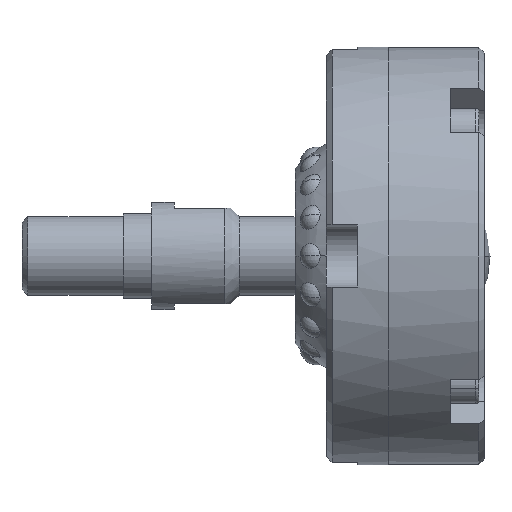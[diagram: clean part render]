
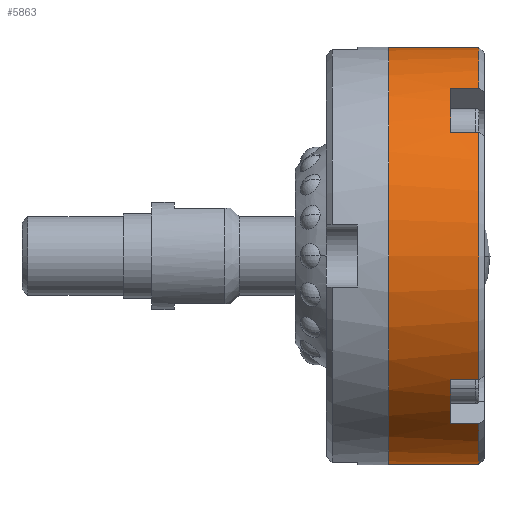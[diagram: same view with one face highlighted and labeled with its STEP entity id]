
A CAD part, front view. The second image highlights one B-rep face of the part: STEP entity #5863.
In plain terms, the highlighted cylindrical face has radius 37 mm (diameter 74 mm), a partial arc.
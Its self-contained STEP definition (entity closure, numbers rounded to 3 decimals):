
#323 = FACE_OUTER_BOUND ( 'NONE', #12674, .T. ) ;
#324 = CYLINDRICAL_SURFACE ( 'NONE', #7086, 37. ) ;
#636 = CARTESIAN_POINT ( 'NONE',  ( 0., 0., 0. ) ) ;
#637 = DIRECTION ( 'NONE',  ( -1., 0., 0. ) ) ;
#638 = DIRECTION ( 'NONE',  ( 0., 0., 1. ) ) ;
#1009 = AXIS2_PLACEMENT_3D ( 'NONE', #7906, #7907, #7908 ) ;
#1018 = AXIS2_PLACEMENT_3D ( 'NONE', #7941, #7942, #7943 ) ;
#1024 = AXIS2_PLACEMENT_3D ( 'NONE', #7977, #7978, #7979 ) ;
#1038 = AXIS2_PLACEMENT_3D ( 'NONE', #8063, #8064, #8065 ) ;
#1040 = AXIS2_PLACEMENT_3D ( 'NONE', #8081, #8082, #8083 ) ;
#1041 = AXIS2_PLACEMENT_3D ( 'NONE', #8086, #8087, #8088 ) ;
#2417 = ORIENTED_EDGE ( 'NONE', *, *, #6458, .T. ) ;
#2600 = VERTEX_POINT ( 'NONE', #11019 ) ;
#2607 = VERTEX_POINT ( 'NONE', #11026 ) ;
#2615 = VERTEX_POINT ( 'NONE', #11034 ) ;
#2619 = VERTEX_POINT ( 'NONE', #11038 ) ;
#2629 = ORIENTED_EDGE ( 'NONE', *, *, #6413, .F. ) ;
#3329 = ORIENTED_EDGE ( 'NONE', *, *, #4144, .F. ) ;
#3820 = ORIENTED_EDGE ( 'NONE', *, *, #6419, .F. ) ;
#3821 = ORIENTED_EDGE ( 'NONE', *, *, #6420, .T. ) ;
#3831 = ORIENTED_EDGE ( 'NONE', *, *, #6394, .T. ) ;
#3850 = ORIENTED_EDGE ( 'NONE', *, *, #6460, .F. ) ;
#3930 = ORIENTED_EDGE ( 'NONE', *, *, #6451, .F. ) ;
#4096 = EDGE_CURVE ( 'NONE', #4397, #4388, #11226, .T. ) ;
#4144 = EDGE_CURVE ( 'NONE', #4403, #4402, #11294, .T. ) ;
#4388 = VERTEX_POINT ( 'NONE', #11887 ) ;
#4397 = VERTEX_POINT ( 'NONE', #11896 ) ;
#4402 = VERTEX_POINT ( 'NONE', #11901 ) ;
#4403 = VERTEX_POINT ( 'NONE', #11902 ) ;
#4410 = VERTEX_POINT ( 'NONE', #11909 ) ;
#5283 = VERTEX_POINT ( 'NONE', #11936 ) ;
#5285 = VERTEX_POINT ( 'NONE', #11938 ) ;
#5297 = VERTEX_POINT ( 'NONE', #11950 ) ;
#5321 = ORIENTED_EDGE ( 'NONE', *, *, #6455, .F. ) ;
#5863 = ADVANCED_FACE ( 'NONE', ( #323 ), #324, .T. ) ;
#6394 = EDGE_CURVE ( 'NONE', #4410, #4397, #8367, .T. ) ;
#6406 = EDGE_CURVE ( 'NONE', #2600, #2615, #8380, .T. ) ;
#6413 = EDGE_CURVE ( 'NONE', #2619, #2615, #8388, .T. ) ;
#6419 = EDGE_CURVE ( 'NONE', #2607, #2619, #8397, .T. ) ;
#6420 = EDGE_CURVE ( 'NONE', #2607, #4410, #8396, .T. ) ;
#6451 = EDGE_CURVE ( 'NONE', #5283, #5297, #8439, .T. ) ;
#6455 = EDGE_CURVE ( 'NONE', #5297, #5285, #8445, .T. ) ;
#6458 = EDGE_CURVE ( 'NONE', #4403, #5285, #8449, .T. ) ;
#6459 = EDGE_CURVE ( 'NONE', #5283, #2600, #8448, .T. ) ;
#6460 = EDGE_CURVE ( 'NONE', #4402, #4388, #8452, .T. ) ;
#7086 = AXIS2_PLACEMENT_3D ( 'NONE', #636, #637, #638 ) ;
#7906 = CARTESIAN_POINT ( 'NONE',  ( 16., 0., 0. ) ) ;
#7907 = DIRECTION ( 'NONE',  ( -1., 0., 0. ) ) ;
#7908 = DIRECTION ( 'NONE',  ( 0., 0., 1. ) ) ;
#7941 = CARTESIAN_POINT ( 'NONE',  ( 16., 0., 0. ) ) ;
#7942 = DIRECTION ( 'NONE',  ( -1., 0., 0. ) ) ;
#7943 = DIRECTION ( 'NONE',  ( 0., 0., 1. ) ) ;
#7961 = CARTESIAN_POINT ( 'NONE',  ( 11., -29.761, 21.983 ) ) ;
#7962 = DIRECTION ( 'NONE',  ( 1., 0., 0. ) ) ;
#7977 = CARTESIAN_POINT ( 'NONE',  ( 11., 0., 0. ) ) ;
#7978 = DIRECTION ( 'NONE',  ( 1., 0., 0. ) ) ;
#7979 = DIRECTION ( 'NONE',  ( 0., 0., -1. ) ) ;
#7980 = CARTESIAN_POINT ( 'NONE',  ( 11., -21.983, 29.761 ) ) ;
#7981 = DIRECTION ( 'NONE',  ( 1., 0., 0. ) ) ;
#8063 = CARTESIAN_POINT ( 'NONE',  ( 11., 0., 0. ) ) ;
#8064 = DIRECTION ( 'NONE',  ( 1., 0., 0. ) ) ;
#8065 = DIRECTION ( 'NONE',  ( 0., 1., 0. ) ) ;
#8072 = CARTESIAN_POINT ( 'NONE',  ( 11., -21.983, -29.761 ) ) ;
#8073 = DIRECTION ( 'NONE',  ( 1., 0., 0. ) ) ;
#8081 = CARTESIAN_POINT ( 'NONE',  ( 16., 0., 0. ) ) ;
#8082 = DIRECTION ( 'NONE',  ( -1., 0., 0. ) ) ;
#8083 = DIRECTION ( 'NONE',  ( 0., 0., 1. ) ) ;
#8084 = CARTESIAN_POINT ( 'NONE',  ( 11., -29.761, -21.983 ) ) ;
#8085 = DIRECTION ( 'NONE',  ( 1., 0., 0. ) ) ;
#8086 = CARTESIAN_POINT ( 'NONE',  ( 0., 0., 0. ) ) ;
#8087 = DIRECTION ( 'NONE',  ( -1., 0., 0. ) ) ;
#8088 = DIRECTION ( 'NONE',  ( 0., 0., 1. ) ) ;
#8367 = CIRCLE ( 'NONE', #1009, 37. ) ;
#8380 = CIRCLE ( 'NONE', #1018, 37. ) ;
#8388 = LINE ( 'NONE', #7961, #8389 ) ;
#8389 = VECTOR ( 'NONE', #7962, 1000. ) ;
#8396 = LINE ( 'NONE', #7980, #8398 ) ;
#8397 = CIRCLE ( 'NONE', #1024, 37. ) ;
#8398 = VECTOR ( 'NONE', #7981, 1000. ) ;
#8439 = CIRCLE ( 'NONE', #1038, 37. ) ;
#8445 = LINE ( 'NONE', #8072, #8446 ) ;
#8446 = VECTOR ( 'NONE', #8073, 1000. ) ;
#8448 = LINE ( 'NONE', #8084, #8450 ) ;
#8449 = CIRCLE ( 'NONE', #1040, 37. ) ;
#8450 = VECTOR ( 'NONE', #8085, 1000. ) ;
#8452 = CIRCLE ( 'NONE', #1041, 37. ) ;
#11019 = CARTESIAN_POINT ( 'NONE',  ( 16., -29.761, -21.983 ) ) ;
#11026 = CARTESIAN_POINT ( 'NONE',  ( 11., -21.983, 29.761 ) ) ;
#11034 = CARTESIAN_POINT ( 'NONE',  ( 16., -29.761, 21.983 ) ) ;
#11038 = CARTESIAN_POINT ( 'NONE',  ( 11., -29.761, 21.983 ) ) ;
#11117 = CARTESIAN_POINT ( 'NONE',  ( 0., 0., 37. ) ) ;
#11118 = DIRECTION ( 'NONE',  ( -1., 0., 0. ) ) ;
#11226 = LINE ( 'NONE', #11117, #11228 ) ;
#11228 = VECTOR ( 'NONE', #11118, 1000. ) ;
#11294 = LINE ( 'NONE', #11883, #11296 ) ;
#11296 = VECTOR ( 'NONE', #11884, 1000. ) ;
#11883 = CARTESIAN_POINT ( 'NONE',  ( 0., 0., -37. ) ) ;
#11884 = DIRECTION ( 'NONE',  ( -1., 0., 0. ) ) ;
#11887 = CARTESIAN_POINT ( 'NONE',  ( 0., 0., 37. ) ) ;
#11896 = CARTESIAN_POINT ( 'NONE',  ( 16., 0., 37. ) ) ;
#11901 = CARTESIAN_POINT ( 'NONE',  ( 0., 0., -37. ) ) ;
#11902 = CARTESIAN_POINT ( 'NONE',  ( 16., 0., -37. ) ) ;
#11909 = CARTESIAN_POINT ( 'NONE',  ( 16., -21.983, 29.761 ) ) ;
#11936 = CARTESIAN_POINT ( 'NONE',  ( 11., -29.761, -21.983 ) ) ;
#11938 = CARTESIAN_POINT ( 'NONE',  ( 16., -21.983, -29.761 ) ) ;
#11950 = CARTESIAN_POINT ( 'NONE',  ( 11., -21.983, -29.761 ) ) ;
#12396 = ORIENTED_EDGE ( 'NONE', *, *, #6459, .T. ) ;
#12397 = ORIENTED_EDGE ( 'NONE', *, *, #6406, .T. ) ;
#12409 = ORIENTED_EDGE ( 'NONE', *, *, #4096, .T. ) ;
#12674 = EDGE_LOOP ( 'NONE', ( #3329, #2417, #5321, #3930, #12396, #12397, #2629, #3820, #3821, #3831, #12409, #3850 ) ) ;
